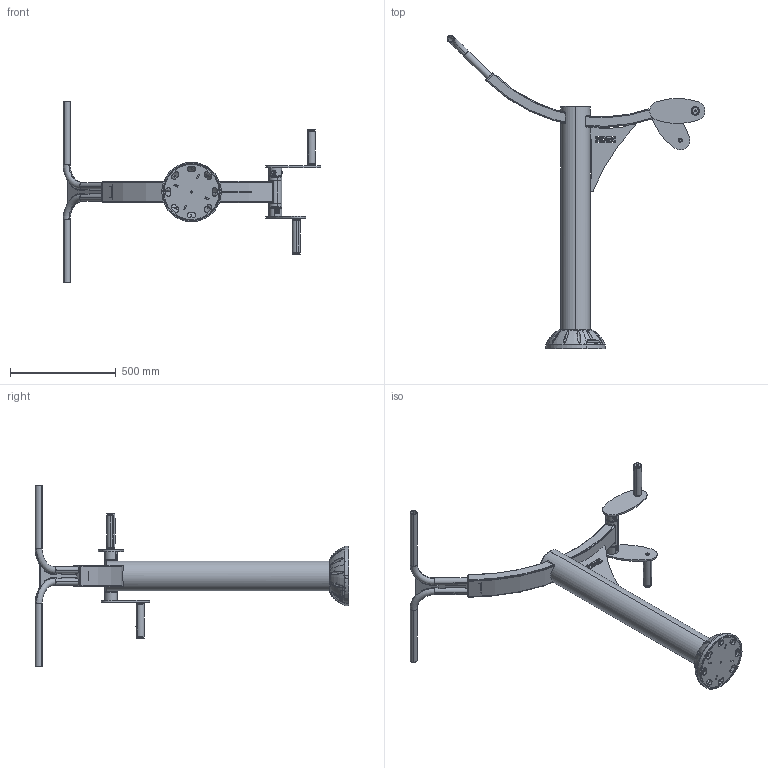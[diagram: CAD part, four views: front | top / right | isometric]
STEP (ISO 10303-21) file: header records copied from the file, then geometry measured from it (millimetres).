
FILE_DESCRIPTION (( 'STEP AP203' ), '1' );
FILE_NAME ('PMR0703 - TOURNIQUET-TRACTION BRAS PMR V1.1.STEP', '2020-03-27T13:45:02', ( '' ), ( '' ), 'SwSTEP 2.0', 'SolidWorks 2019', '' );
FILE_SCHEMA (( 'CONFIG_CONTROL_DESIGN' ));
Length unit declared in the file: millimetre
Products named in the file (37): SB0112 - Vis Torx teton central M8x20_M8x20; SP0605 - Poignee plastique D.33,7 L=170; PU-TDRPOI.A - Tole renfort poignées traction bras V2.0; SB0132 - Joint torique 27 X 5 _d.28 f.7; PU-TDRFIT225 - Tole renfort tube rectangulaire cintré R750 V1.0; SCH1806.A - Chapeau D135 V1.2; SA1440 - Goupille avec plat D.15 V1.0; MANIV-S0213 - MANIVELLE TOURNIQUET V2.1; TROND33.7X2.9 - TUBE ROND D33.7 L=677 V1.0; SRR0804 - Roulement 6205 52-25-15; SB0131 - Joint torique 23 X 5 _d.28 f.7; PU-TOLPLAT - Platine base V1.0; SC0304 - CACHE PLATINE ASS V4.0; PU-TOLGOPL - Gousset platine V2.0; BATI-PMR0703 - CHASSIS TOURNIQUET-TRACTION BRAS PMR V1.1; TOLMAN-PMR0703 - Manivelle poignée Tourniquet V2.0_V‚lo elliptique; SA1411.B - Axe articulation Inox 303 D25 L216 V3.1; SB0104 - Vis Torx teton central M10x20; SA1414.A - Axe poignée Inox D.20mm L173,5 V2.1; SR0423 - Entretoise Nylon 20x28x7,5mm V1.0; Ass Joint torique Tourniquet - V幨o V1.0; PMR0703 - TOURNIQUET-TRACTION BRAS PMR V1.1; ENSPOI-M0307 - POIGNEES TRACTION BRAS ASS V1.0; PLATINE BASE ASS V2.0_RAL7012; SR0421 - Rondelle plate M8 diamètre Ext. 30 mm A2; TRECT-R750 - Tube rectangulaire cintré R750 100x50x3 L873 V1.0_Gueule de loup; SR0410 - Rondelle Grower M10 A2; SC0304 - Demi cache platine D140 V4.0; SPC0818 - Palier à collerette 15x19x23-16 V1.0; TROCOB-PMR0703 - Colonne base Duo Tourniquet-Traction Bras PMR L1128 V1.0; SBA1603.A - Bague manivelle support goupille V2.0; SBA1602.A - Bague 6205 L144 V1.0; SCH1804 - Chapeau 97x47 2 trous D34,7 V1.0; SR0416 - Rondelle plate petite M10 A2 ext 22mm; SBA1604.A - Bague support poignée V1.3; TDRENT-M0307 - Entretoise placement tubes Traction Bras V1.0
Assembly tree (63 placements, depth 4):
  PMR0703 - TOURNIQUET-TRACTION BRAS PMR V1.1
    BATI-PMR0703 - CHASSIS TOURNIQUET-TRACTION BRAS PMR V1.1
      TROCOB-PMR0703 - Colonne base Duo Tourniquet-Traction Bras PMR L1128 V1.0
      SCH1806.A - Chapeau D135 V1.2
      ENSPOI-M0307 - POIGNEES TRACTION BRAS ASS V1.0
        TROND33.7X2.9 - TUBE ROND D33.7 L=677 V1.0  x2
        PU-TDRPOI.A - Tole renfort poignées traction bras V2.0
        SCH1804 - Chapeau 97x47 2 trous D34,7 V1.0
        TDRENT-M0307 - Entretoise placement tubes Traction Bras V1.0
      PU-TDRFIT225 - Tole renfort tube rectangulaire cintré R750 V1.0
      PLATINE BASE ASS V2.0_RAL7012
        PU-TOLPLAT - Platine base V1.0
        PU-TOLGOPL - Gousset platine V2.0  x4
      SBA1602.A - Bague 6205 L144 V1.0
      TRECT-R750 - Tube rectangulaire cintré R750 100x50x3 L873 V1.0_Gueule de loup
    SC0304 - CACHE PLATINE ASS V4.0
      SC0304 - Demi cache platine D140 V4.0
      SB0112 - Vis Torx teton central M8x20_M8x20  x2
    SRR0804 - Roulement 6205 52-25-15  x2
    SA1411.B - Axe articulation Inox 303 D25 L216 V3.1
    MANIV-S0213 - MANIVELLE TOURNIQUET V2.1
      TOLMAN-PMR0703 - Manivelle poignée Tourniquet V2.0_V‚lo elliptique
      SBA1603.A - Bague manivelle support goupille V2.0
      SA1440 - Goupille avec plat D.15 V1.0
      SA1414.A - Axe poignée Inox D.20mm L173,5 V2.1
      SR0423 - Entretoise Nylon 20x28x7,5mm V1.0
      SBA1604.A - Bague support poignée V1.3
      SPC0818 - Palier à collerette 15x19x23-16 V1.0  x2
      SR0421 - Rondelle plate M8 diamètre Ext. 30 mm A2
      SB0112 - Vis Torx teton central M8x20_M8x20
      SP0605 - Poignee plastique D.33,7 L=170
      SR0416 - Rondelle plate petite M10 A2 ext 22mm
      SB0104 - Vis Torx teton central M10x20
      SR0410 - Rondelle Grower M10 A2
    MANIV-S0213 - MANIVELLE TOURNIQUET V2.1
      TOLMAN-PMR0703 - Manivelle poignée Tourniquet V2.0_V‚lo elliptique
      SBA1603.A - Bague manivelle support goupille V2.0
      SA1440 - Goupille avec plat D.15 V1.0
      SA1414.A - Axe poignée Inox D.20mm L173,5 V2.1
      SR0423 - Entretoise Nylon 20x28x7,5mm V1.0
      SBA1604.A - Bague support poignée V1.3
      SPC0818 - Palier à collerette 15x19x23-16 V1.0  x2
      SR0421 - Rondelle plate M8 diamètre Ext. 30 mm A2
      SB0112 - Vis Torx teton central M8x20_M8x20
      SP0605 - Poignee plastique D.33,7 L=170
      SR0416 - Rondelle plate petite M10 A2 ext 22mm
      SB0104 - Vis Torx teton central M10x20
      SR0410 - Rondelle Grower M10 A2
    Ass Joint torique Tourniquet - V幨o V1.0
      SB0132 - Joint torique 27 X 5 _d.28 f.7  x3
      SB0131 - Joint torique 23 X 5 _d.28 f.7  x4
Bounding box: 1217.13 x 1481.68 x 856 mm (x, y, z)
Volume: 5340797.9 mm3; surface area: 2586927.1 mm2
Topology: 65 solids, 65 shells, 1604 faces, 3898 edges, 2480 vertices
Faces by surface type: cylinder 534, plane 398, bspline 336, cone 188, torus 128, sphere 20
Entity records: 125573 total; most frequent: CARTESIAN_POINT 95935, ORIENTED_EDGE 5550, DIRECTION 4687, EDGE_CURVE 2775, AXIS2_PLACEMENT_3D 1855, VERTEX_POINT 1778, EDGE_LOOP 1283, ADVANCED_FACE 1118
